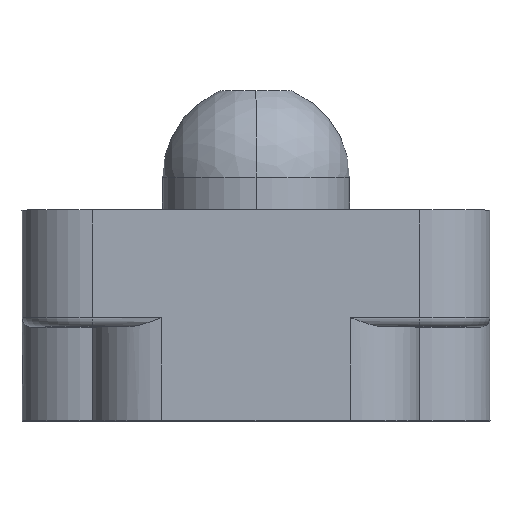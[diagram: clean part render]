
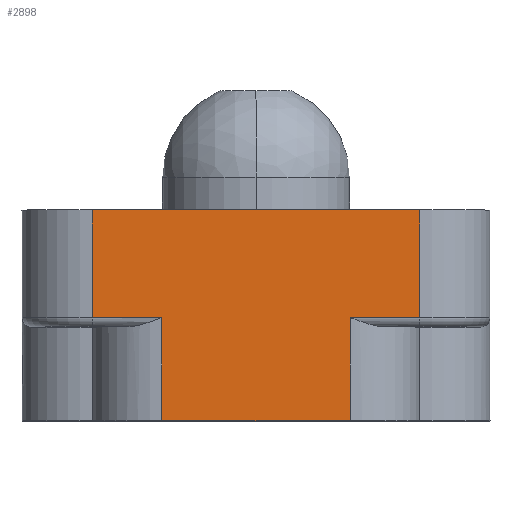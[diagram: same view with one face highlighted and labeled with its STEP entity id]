
A CAD part, top view. The second image highlights one B-rep face of the part: STEP entity #2898.
In plain terms, the highlighted planar face has unit normal (0, 0, 1).
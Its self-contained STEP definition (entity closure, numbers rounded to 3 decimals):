
#151 = CARTESIAN_POINT ( 'NONE',  ( -13.972, -2.552, 25.476 ) ) ;
#265 = EDGE_CURVE ( 'NONE', #4220, #5450, #5662, .T. ) ;
#298 = ORIENTED_EDGE ( 'NONE', *, *, #265, .T. ) ;
#303 = CARTESIAN_POINT ( 'NONE',  ( -2.952, 2.048, 25.476 ) ) ;
#334 = AXIS2_PLACEMENT_3D ( 'NONE', #3425, #3586, #3708 ) ;
#570 = FACE_OUTER_BOUND ( 'NONE', #1733, .T. ) ;
#589 = VECTOR ( 'NONE', #3959, 1000. ) ;
#810 = CARTESIAN_POINT ( 'NONE',  ( -13.972, -6.952, 25.476 ) ) ;
#856 = DIRECTION ( 'NONE',  ( 0., 1., 0. ) ) ;
#881 = VECTOR ( 'NONE', #2223, 1000. ) ;
#960 = VECTOR ( 'NONE', #2356, 1000. ) ;
#1212 = CARTESIAN_POINT ( 'NONE',  ( -2.952, 2.048, 25.476 ) ) ;
#1219 = ORIENTED_EDGE ( 'NONE', *, *, #2367, .F. ) ;
#1388 = LINE ( 'NONE', #810, #5337 ) ;
#1470 = VERTEX_POINT ( 'NONE', #4713 ) ;
#1558 = EDGE_CURVE ( 'NONE', #3037, #6250, #4554, .T. ) ;
#1733 = EDGE_LOOP ( 'NONE', ( #2115, #6125, #1219, #3953, #298, #2038, #6337, #4045 ) ) ;
#1765 = CARTESIAN_POINT ( 'NONE',  ( -5.932, -6.952, 25.476 ) ) ;
#1885 = CARTESIAN_POINT ( 'NONE',  ( -5.932, -2.552, 25.476 ) ) ;
#2038 = ORIENTED_EDGE ( 'NONE', *, *, #5267, .T. ) ;
#2110 = CARTESIAN_POINT ( 'NONE',  ( -2.952, -2.552, 25.476 ) ) ;
#2115 = ORIENTED_EDGE ( 'NONE', *, *, #1558, .T. ) ;
#2162 = VECTOR ( 'NONE', #6245, 1000. ) ;
#2166 = EDGE_CURVE ( 'NONE', #3037, #3729, #2842, .T. ) ;
#2223 = DIRECTION ( 'NONE',  ( 0., -1., 0. ) ) ;
#2268 = CARTESIAN_POINT ( 'NONE',  ( -2.952, 2.048, 25.476 ) ) ;
#2356 = DIRECTION ( 'NONE',  ( 1., 0., 0. ) ) ;
#2367 = EDGE_CURVE ( 'NONE', #1470, #5293, #1388, .T. ) ;
#2551 = CARTESIAN_POINT ( 'NONE',  ( -16.952, 2.048, 25.476 ) ) ;
#2807 = CARTESIAN_POINT ( 'NONE',  ( -16.952, -2.552, 25.476 ) ) ;
#2842 = LINE ( 'NONE', #1212, #5415 ) ;
#2898 = ADVANCED_FACE ( 'NONE', ( #570 ), #3302, .F. ) ;
#3037 = VERTEX_POINT ( 'NONE', #2551 ) ;
#3151 = DIRECTION ( 'NONE',  ( 0., 1., 0. ) ) ;
#3199 = CARTESIAN_POINT ( 'NONE',  ( -13.972, -6.952, 25.476 ) ) ;
#3259 = CARTESIAN_POINT ( 'NONE',  ( -5.932, -6.952, 25.476 ) ) ;
#3302 = PLANE ( 'NONE',  #334 ) ;
#3425 = CARTESIAN_POINT ( 'NONE',  ( -2.952, 2.048, 25.476 ) ) ;
#3535 = EDGE_CURVE ( 'NONE', #3729, #6171, #6119, .T. ) ;
#3586 = DIRECTION ( 'NONE',  ( 0., 0., -1. ) ) ;
#3708 = DIRECTION ( 'NONE',  ( -1., 0., 0. ) ) ;
#3729 = VERTEX_POINT ( 'NONE', #303 ) ;
#3757 = EDGE_CURVE ( 'NONE', #6250, #5293, #5069, .T. ) ;
#3842 = LINE ( 'NONE', #3199, #5216 ) ;
#3953 = ORIENTED_EDGE ( 'NONE', *, *, #5728, .F. ) ;
#3959 = DIRECTION ( 'NONE',  ( 0., -1., 0. ) ) ;
#4041 = CARTESIAN_POINT ( 'NONE',  ( -16.952, 2.048, 25.476 ) ) ;
#4045 = ORIENTED_EDGE ( 'NONE', *, *, #2166, .F. ) ;
#4220 = VERTEX_POINT ( 'NONE', #1765 ) ;
#4329 = VECTOR ( 'NONE', #3151, 1000. ) ;
#4554 = LINE ( 'NONE', #4041, #589 ) ;
#4713 = CARTESIAN_POINT ( 'NONE',  ( -13.972, -6.952, 25.476 ) ) ;
#4914 = CARTESIAN_POINT ( 'NONE',  ( -2.952, -2.552, 25.476 ) ) ;
#5014 = DIRECTION ( 'NONE',  ( 1., 0., 0. ) ) ;
#5069 = LINE ( 'NONE', #4914, #960 ) ;
#5216 = VECTOR ( 'NONE', #6183, 1000. ) ;
#5267 = EDGE_CURVE ( 'NONE', #5450, #6171, #6169, .T. ) ;
#5293 = VERTEX_POINT ( 'NONE', #151 ) ;
#5337 = VECTOR ( 'NONE', #856, 1000. ) ;
#5415 = VECTOR ( 'NONE', #5014, 1000. ) ;
#5450 = VERTEX_POINT ( 'NONE', #1885 ) ;
#5662 = LINE ( 'NONE', #3259, #4329 ) ;
#5728 = EDGE_CURVE ( 'NONE', #4220, #1470, #3842, .T. ) ;
#5789 = CARTESIAN_POINT ( 'NONE',  ( -2.952, -2.552, 25.476 ) ) ;
#6119 = LINE ( 'NONE', #2268, #881 ) ;
#6125 = ORIENTED_EDGE ( 'NONE', *, *, #3757, .T. ) ;
#6169 = LINE ( 'NONE', #5789, #2162 ) ;
#6171 = VERTEX_POINT ( 'NONE', #2110 ) ;
#6183 = DIRECTION ( 'NONE',  ( -1., 0., 0. ) ) ;
#6245 = DIRECTION ( 'NONE',  ( 1., 0., 0. ) ) ;
#6250 = VERTEX_POINT ( 'NONE', #2807 ) ;
#6337 = ORIENTED_EDGE ( 'NONE', *, *, #3535, .F. ) ;
